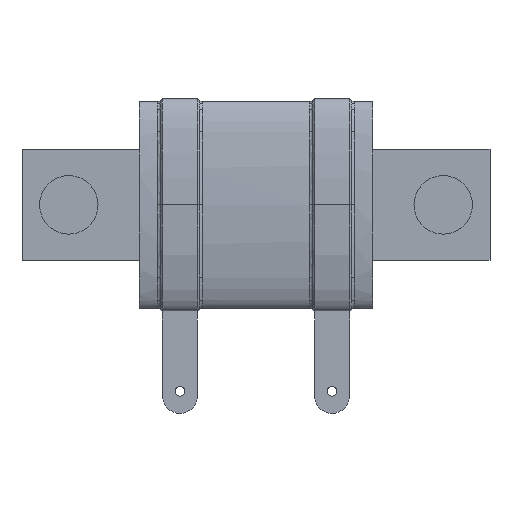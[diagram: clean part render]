
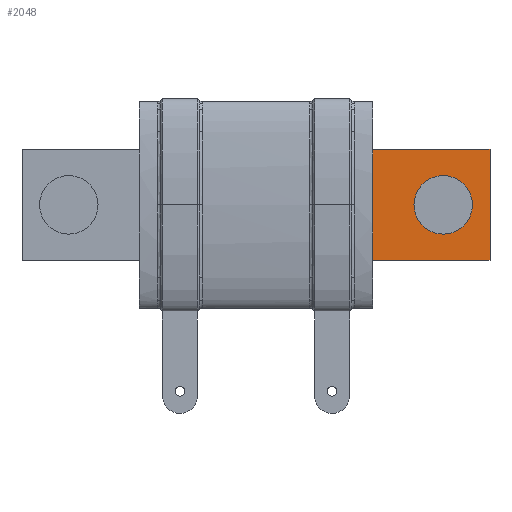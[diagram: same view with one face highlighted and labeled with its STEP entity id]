
A CAD part, front view. The second image highlights one B-rep face of the part: STEP entity #2048.
In plain terms, the highlighted planar face has unit normal (0, -1, 0).
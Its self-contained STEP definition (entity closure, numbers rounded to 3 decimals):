
#67 = EDGE_CURVE ( 'NONE', #3823, #1334, #6281, .T. ) ;
#98 = CIRCLE ( 'NONE', #100, 3.97 ) ;
#100 = AXIS2_PLACEMENT_3D ( 'NONE', #764, #762, #754 ) ;
#404 = CARTESIAN_POINT ( 'NONE',  ( 25.4, -1.375, 3.97 ) ) ;
#426 = EDGE_LOOP ( 'NONE', ( #1584, #1579, #1577, #1572 ) ) ;
#590 = VECTOR ( 'NONE', #5427, 1000. ) ;
#627 = CARTESIAN_POINT ( 'NONE',  ( 31.755, -1.375, 7.54 ) ) ;
#754 = DIRECTION ( 'NONE',  ( 0., 0., 1. ) ) ;
#762 = DIRECTION ( 'NONE',  ( 0., -1., 0. ) ) ;
#764 = CARTESIAN_POINT ( 'NONE',  ( 25.4, -1.375, 0. ) ) ;
#937 = CARTESIAN_POINT ( 'NONE',  ( 15.875, -1.375, -7.54 ) ) ;
#958 = DIRECTION ( 'NONE',  ( 0., 1., 0. ) ) ;
#1147 = VERTEX_POINT ( 'NONE', #627 ) ;
#1177 = DIRECTION ( 'NONE',  ( 0., 0., -1. ) ) ;
#1221 = PLANE ( 'NONE',  #2085 ) ;
#1334 = VERTEX_POINT ( 'NONE', #937 ) ;
#1572 = ORIENTED_EDGE ( 'NONE', *, *, #4751, .T. ) ;
#1577 = ORIENTED_EDGE ( 'NONE', *, *, #3029, .F. ) ;
#1579 = ORIENTED_EDGE ( 'NONE', *, *, #67, .F. ) ;
#1584 = ORIENTED_EDGE ( 'NONE', *, *, #1950, .T. ) ;
#1586 = ORIENTED_EDGE ( 'NONE', *, *, #5125, .F. ) ;
#1604 = ORIENTED_EDGE ( 'NONE', *, *, #4752, .F. ) ;
#1689 = FACE_OUTER_BOUND ( 'NONE', #426, .T. ) ;
#1772 = CARTESIAN_POINT ( 'NONE',  ( 31.755, -1.375, -7.54 ) ) ;
#1950 = EDGE_CURVE ( 'NONE', #4257, #1334, #3488, .T. ) ;
#2048 = ADVANCED_FACE ( 'NONE', ( #2438, #1689 ), #1221, .F. ) ;
#2085 = AXIS2_PLACEMENT_3D ( 'NONE', #2868, #958, #3311 ) ;
#2438 = FACE_BOUND ( 'NONE', #3396, .T. ) ;
#2470 = DIRECTION ( 'NONE',  ( 0., 0., 1. ) ) ;
#2473 = DIRECTION ( 'NONE',  ( 0., -1., 0. ) ) ;
#2480 = CARTESIAN_POINT ( 'NONE',  ( 25.4, -1.375, 0. ) ) ;
#2483 = DIRECTION ( 'NONE',  ( -1., 0., 0. ) ) ;
#2492 = CARTESIAN_POINT ( 'NONE',  ( 31.755, -1.375, 7.54 ) ) ;
#2521 = LINE ( 'NONE', #2492, #3654 ) ;
#2868 = CARTESIAN_POINT ( 'NONE',  ( 31.755, -1.375, 7.54 ) ) ;
#3029 = EDGE_CURVE ( 'NONE', #1147, #3823, #5034, .T. ) ;
#3311 = DIRECTION ( 'NONE',  ( 0., 0., 1. ) ) ;
#3396 = EDGE_LOOP ( 'NONE', ( #1604, #1586 ) ) ;
#3488 = LINE ( 'NONE', #4840, #5249 ) ;
#3514 = VECTOR ( 'NONE', #4161, 1000. ) ;
#3654 = VECTOR ( 'NONE', #2483, 1000. ) ;
#3762 = CIRCLE ( 'NONE', #5394, 3.97 ) ;
#3823 = VERTEX_POINT ( 'NONE', #1772 ) ;
#3920 = VERTEX_POINT ( 'NONE', #404 ) ;
#4050 = CARTESIAN_POINT ( 'NONE',  ( 31.755, -1.375, 7.54 ) ) ;
#4161 = DIRECTION ( 'NONE',  ( 0., 0., -1. ) ) ;
#4175 = VERTEX_POINT ( 'NONE', #5320 ) ;
#4257 = VERTEX_POINT ( 'NONE', #4903 ) ;
#4751 = EDGE_CURVE ( 'NONE', #1147, #4257, #2521, .T. ) ;
#4752 = EDGE_CURVE ( 'NONE', #3920, #4175, #3762, .T. ) ;
#4840 = CARTESIAN_POINT ( 'NONE',  ( 15.875, -1.375, 7.54 ) ) ;
#4903 = CARTESIAN_POINT ( 'NONE',  ( 15.875, -1.375, 7.54 ) ) ;
#4971 = CARTESIAN_POINT ( 'NONE',  ( 31.755, -1.375, -7.54 ) ) ;
#5034 = LINE ( 'NONE', #4050, #3514 ) ;
#5125 = EDGE_CURVE ( 'NONE', #4175, #3920, #98, .T. ) ;
#5249 = VECTOR ( 'NONE', #1177, 1000. ) ;
#5320 = CARTESIAN_POINT ( 'NONE',  ( 25.4, -1.375, -3.97 ) ) ;
#5394 = AXIS2_PLACEMENT_3D ( 'NONE', #2480, #2473, #2470 ) ;
#5427 = DIRECTION ( 'NONE',  ( -1., 0., 0. ) ) ;
#6281 = LINE ( 'NONE', #4971, #590 ) ;
